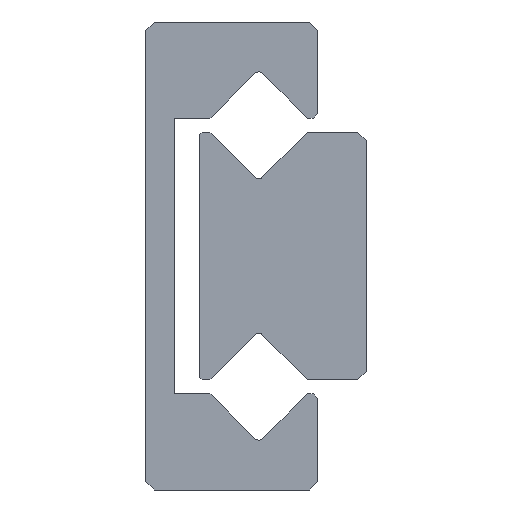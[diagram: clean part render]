
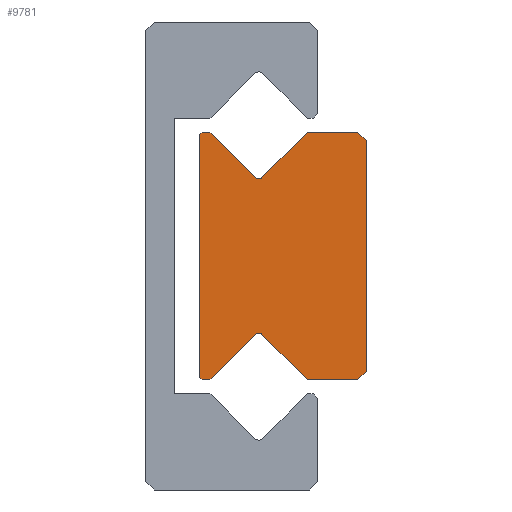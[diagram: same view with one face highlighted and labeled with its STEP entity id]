
A CAD part, left-side view. The second image highlights one B-rep face of the part: STEP entity #9781.
In plain terms, the highlighted planar face has unit normal (-1, 0, 0).
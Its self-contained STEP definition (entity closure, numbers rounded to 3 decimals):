
#60=CIRCLE('',#10350,0.2);
#67=CIRCLE('',#10365,0.2);
#1113=ORIENTED_EDGE('',*,*,#4027,.F.);
#1114=ORIENTED_EDGE('',*,*,#4083,.F.);
#1115=ORIENTED_EDGE('',*,*,#4075,.F.);
#1116=ORIENTED_EDGE('',*,*,#4072,.F.);
#1117=ORIENTED_EDGE('',*,*,#4069,.F.);
#1118=ORIENTED_EDGE('',*,*,#4066,.T.);
#1119=ORIENTED_EDGE('',*,*,#4063,.F.);
#1120=ORIENTED_EDGE('',*,*,#4060,.F.);
#1121=ORIENTED_EDGE('',*,*,#4057,.F.);
#1122=ORIENTED_EDGE('',*,*,#4054,.F.);
#1123=ORIENTED_EDGE('',*,*,#4046,.F.);
#1124=ORIENTED_EDGE('',*,*,#4043,.F.);
#1125=ORIENTED_EDGE('',*,*,#4040,.F.);
#1126=ORIENTED_EDGE('',*,*,#4037,.T.);
#1127=ORIENTED_EDGE('',*,*,#4034,.F.);
#1128=ORIENTED_EDGE('',*,*,#4031,.F.);
#4027=EDGE_CURVE('',#5529,#5530,#6545,.T.);
#4031=EDGE_CURVE('',#5530,#5533,#6549,.T.);
#4034=EDGE_CURVE('',#5533,#5535,#6552,.T.);
#4037=EDGE_CURVE('',#5537,#5535,#60,.T.);
#4040=EDGE_CURVE('',#5537,#5539,#6556,.T.);
#4043=EDGE_CURVE('',#5539,#5541,#6559,.T.);
#4046=EDGE_CURVE('',#5541,#5543,#6562,.T.);
#4054=EDGE_CURVE('',#5543,#5550,#6565,.T.);
#4057=EDGE_CURVE('',#5550,#5552,#6568,.T.);
#4060=EDGE_CURVE('',#5552,#5554,#6571,.T.);
#4063=EDGE_CURVE('',#5554,#5556,#6574,.T.);
#4066=EDGE_CURVE('',#5558,#5556,#67,.T.);
#4069=EDGE_CURVE('',#5558,#5560,#6578,.T.);
#4072=EDGE_CURVE('',#5560,#5562,#6581,.T.);
#4075=EDGE_CURVE('',#5562,#5564,#6584,.T.);
#4083=EDGE_CURVE('',#5564,#5529,#6587,.T.);
#5529=VERTEX_POINT('',#14847);
#5530=VERTEX_POINT('',#14848);
#5533=VERTEX_POINT('',#14856);
#5535=VERTEX_POINT('',#14862);
#5537=VERTEX_POINT('',#14868);
#5539=VERTEX_POINT('',#14874);
#5541=VERTEX_POINT('',#14880);
#5543=VERTEX_POINT('',#14886);
#5550=VERTEX_POINT('',#14902);
#5552=VERTEX_POINT('',#14908);
#5554=VERTEX_POINT('',#14914);
#5556=VERTEX_POINT('',#14920);
#5558=VERTEX_POINT('',#14926);
#5560=VERTEX_POINT('',#14932);
#5562=VERTEX_POINT('',#14938);
#5564=VERTEX_POINT('',#14944);
#6545=LINE('',#14846,#7387);
#6549=LINE('',#14855,#7391);
#6552=LINE('',#14861,#7394);
#6556=LINE('',#14873,#7398);
#6559=LINE('',#14879,#7401);
#6562=LINE('',#14885,#7404);
#6565=LINE('',#14901,#7407);
#6568=LINE('',#14907,#7410);
#6571=LINE('',#14913,#7413);
#6574=LINE('',#14919,#7416);
#6578=LINE('',#14931,#7420);
#6581=LINE('',#14937,#7423);
#6584=LINE('',#14943,#7426);
#6587=LINE('',#14959,#7429);
#7387=VECTOR('',#11568,1000.);
#7391=VECTOR('',#11574,1000.);
#7394=VECTOR('',#11579,1000.);
#7398=VECTOR('',#11591,1000.);
#7401=VECTOR('',#11596,1000.);
#7404=VECTOR('',#11601,1000.);
#7407=VECTOR('',#11616,1000.);
#7410=VECTOR('',#11621,1000.);
#7413=VECTOR('',#11626,1000.);
#7416=VECTOR('',#11631,1000.);
#7420=VECTOR('',#11643,1000.);
#7423=VECTOR('',#11648,1000.);
#7426=VECTOR('',#11653,1000.);
#7429=VECTOR('',#11668,1000.);
#8256=EDGE_LOOP('',(#1113,#1114,#1115,#1116,#1117,#1118,#1119,#1120,#1121,
#1122,#1123,#1124,#1125,#1126,#1127,#1128));
#8912=FACE_BOUND('',#8256,.T.);
#9556=PLANE('',#10377);
#9781=ADVANCED_FACE('',(#8912),#9556,.F.);
#10350=AXIS2_PLACEMENT_3D('',#14867,#11584,#11585);
#10365=AXIS2_PLACEMENT_3D('',#14925,#11636,#11637);
#10377=AXIS2_PLACEMENT_3D('',#14962,#11672,#11673);
#11568=DIRECTION('',(0.,-0.707,0.707));
#11574=DIRECTION('',(0.,-1.,0.));
#11579=DIRECTION('',(0.,-0.707,-0.707));
#11584=DIRECTION('',(1.,0.,0.));
#11585=DIRECTION('',(0.,0.,-1.));
#11591=DIRECTION('',(0.,-0.707,0.707));
#11596=DIRECTION('',(0.,-1.,0.));
#11601=DIRECTION('',(0.,-0.707,-0.707));
#11616=DIRECTION('',(0.,0.,-1.));
#11621=DIRECTION('',(0.,0.707,-0.707));
#11626=DIRECTION('',(0.,1.,0.));
#11631=DIRECTION('',(0.,0.707,0.707));
#11636=DIRECTION('',(1.,0.,0.));
#11637=DIRECTION('',(0.,0.,-1.));
#11643=DIRECTION('',(0.,0.707,-0.707));
#11648=DIRECTION('',(0.,1.,0.));
#11653=DIRECTION('',(0.,0.707,0.707));
#11668=DIRECTION('',(0.,0.,1.));
#11672=DIRECTION('',(1.,0.,0.));
#11673=DIRECTION('',(0.,0.,-1.));
#14846=CARTESIAN_POINT('',(-35.,6.05,4.4));
#14847=CARTESIAN_POINT('',(-35.,6.05,4.4));
#14848=CARTESIAN_POINT('',(-35.,5.95,4.5));
#14855=CARTESIAN_POINT('',(-35.,5.95,4.5));
#14856=CARTESIAN_POINT('',(-35.,5.671,4.5));
#14861=CARTESIAN_POINT('',(-35.,5.671,4.5));
#14862=CARTESIAN_POINT('',(-35.,4.041,2.87));
#14867=CARTESIAN_POINT('',(-35.,3.9,3.012));
#14868=CARTESIAN_POINT('',(-35.,3.759,2.87));
#14873=CARTESIAN_POINT('',(-35.,3.759,2.87));
#14874=CARTESIAN_POINT('',(-35.,2.129,4.5));
#14879=CARTESIAN_POINT('',(-35.,2.129,4.5));
#14880=CARTESIAN_POINT('',(-35.,0.3,4.5));
#14885=CARTESIAN_POINT('',(-35.,0.3,4.5));
#14886=CARTESIAN_POINT('',(-35.,0.,4.2));
#14901=CARTESIAN_POINT('',(-35.,0.,4.2));
#14902=CARTESIAN_POINT('',(-35.,0.,-4.2));
#14907=CARTESIAN_POINT('',(-35.,0.,-4.2));
#14908=CARTESIAN_POINT('',(-35.,0.3,-4.5));
#14913=CARTESIAN_POINT('',(-35.,0.3,-4.5));
#14914=CARTESIAN_POINT('',(-35.,2.129,-4.5));
#14919=CARTESIAN_POINT('',(-35.,2.129,-4.5));
#14920=CARTESIAN_POINT('',(-35.,3.759,-2.87));
#14925=CARTESIAN_POINT('',(-35.,3.9,-3.012));
#14926=CARTESIAN_POINT('',(-35.,4.041,-2.87));
#14931=CARTESIAN_POINT('',(-35.,4.041,-2.87));
#14932=CARTESIAN_POINT('',(-35.,5.671,-4.5));
#14937=CARTESIAN_POINT('',(-35.,5.671,-4.5));
#14938=CARTESIAN_POINT('',(-35.,5.95,-4.5));
#14943=CARTESIAN_POINT('',(-35.,5.95,-4.5));
#14944=CARTESIAN_POINT('',(-35.,6.05,-4.4));
#14959=CARTESIAN_POINT('',(-35.,6.05,-4.4));
#14962=CARTESIAN_POINT('',(-35.,3.9,3.012));
